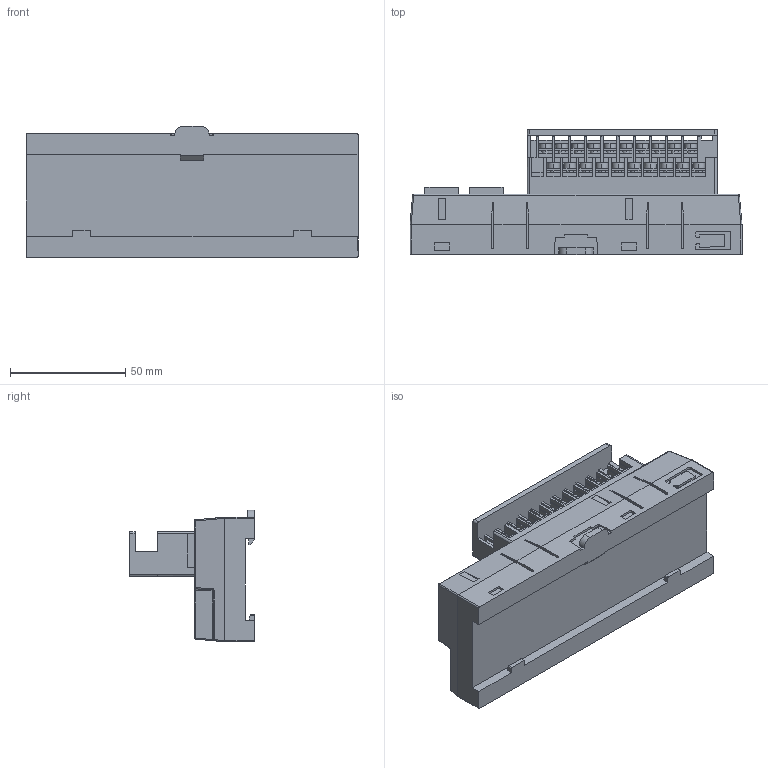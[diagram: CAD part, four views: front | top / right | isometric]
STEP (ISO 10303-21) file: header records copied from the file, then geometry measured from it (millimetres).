
FILE_DESCRIPTION (( 'STEP AP203' ), '1' );
FILE_NAME ('RG-CU-16_221114.STEP', '2025-11-19T06:24:48', ( '' ), ( '' ), 'SwSTEP 2.0', 'SolidWorks 2022', '' );
FILE_SCHEMA (( 'CONFIG_CONTROL_DESIGN' ));
Length unit declared in the file: millimetre
Products named in the file (1): RG-CU-16_221114
Bounding box: 144 x 54.3 x 57.01 mm (x, y, z)
Volume: 200795.2 mm3; surface area: 43598.9 mm2
Topology: 1 solids, 1 shells, 1096 faces, 3114 edges, 2035 vertices
Faces by surface type: plane 905, cylinder 118, bspline 66, sphere 7
Entity records: 35975 total; most frequent: CARTESIAN_POINT 7680, ORIENTED_EDGE 6218, DIRECTION 5328, EDGE_CURVE 3109, LINE 2658, VECTOR 2658, VERTEX_POINT 2035, AXIS2_PLACEMENT_3D 1335
